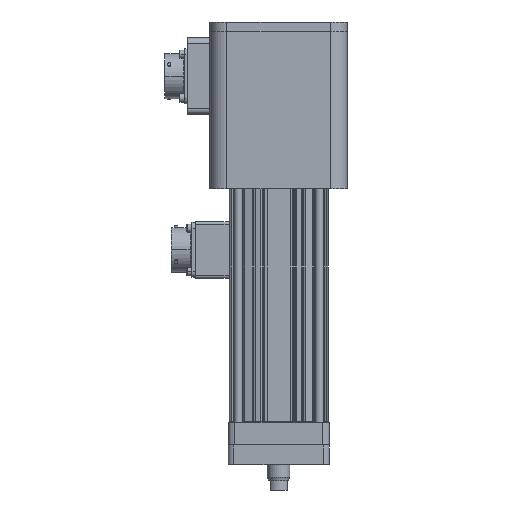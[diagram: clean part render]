
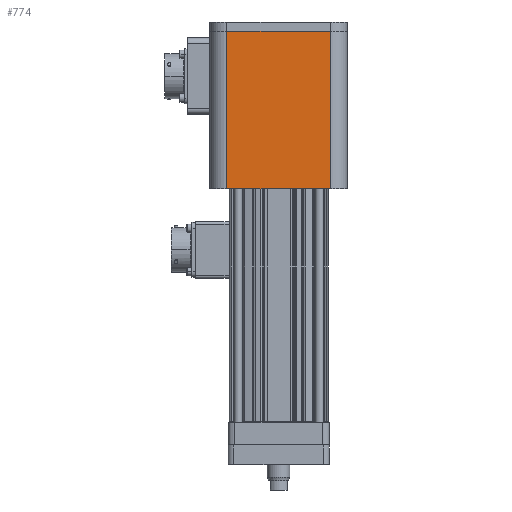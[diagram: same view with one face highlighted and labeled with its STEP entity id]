
A CAD part, left-side view. The second image highlights one B-rep face of the part: STEP entity #774.
In plain terms, the highlighted planar face has unit normal (-1, 0, 0) as drawn and (1, 0, 0) by its records, which use the part's own axes.
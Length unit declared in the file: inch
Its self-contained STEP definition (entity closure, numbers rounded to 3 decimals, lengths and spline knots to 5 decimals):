
#762 = ORIENTED_EDGE ( 'NONE', *, *, #763, .F. ) ;
#763 = EDGE_CURVE ( 'NONE', #766, #811, #8553, .T. ) ;
#764 = EDGE_LOOP ( 'NONE', ( #775, #762, #807, #809 ) ) ;
#765 = EDGE_CURVE ( 'NONE', #806, #811, #8535, .T. ) ;
#766 = VERTEX_POINT ( 'NONE', #8544 ) ;
#767 = VERTEX_POINT ( 'NONE', #8533 ) ;
#772 = EDGE_CURVE ( 'NONE', #767, #806, #8531, .T. ) ;
#774 = ADVANCED_FACE ( 'NONE', ( #8547 ), #8546, .F. ) ;
#775 = ORIENTED_EDGE ( 'NONE', *, *, #765, .T. ) ;
#806 = VERTEX_POINT ( 'NONE', #8594 ) ;
#807 = ORIENTED_EDGE ( 'NONE', *, *, #808, .F. ) ;
#808 = EDGE_CURVE ( 'NONE', #767, #766, #8577, .T. ) ;
#809 = ORIENTED_EDGE ( 'NONE', *, *, #772, .T. ) ;
#811 = VERTEX_POINT ( 'NONE', #8579 ) ;
#8523 = CARTESIAN_POINT ( 'NONE',  ( 1.523, -1.148, 0. ) ) ;
#8530 = DIRECTION ( 'NONE',  ( 0., 0., -1. ) ) ;
#8531 = LINE ( 'NONE', #8541, #8555 ) ;
#8533 = CARTESIAN_POINT ( 'NONE',  ( 1.523, -1.148, 3.5 ) ) ;
#8534 = VECTOR ( 'NONE', #8530, 39.37008 ) ;
#8535 = LINE ( 'NONE', #8523, #8552 ) ;
#8536 = DIRECTION ( 'NONE',  ( 0., 0., 1. ) ) ;
#8537 = DIRECTION ( 'NONE',  ( -1., 0., 0. ) ) ;
#8538 = AXIS2_PLACEMENT_3D ( 'NONE', #8545, #8537, #8536 ) ;
#8541 = CARTESIAN_POINT ( 'NONE',  ( 1.523, -1.148, 3.5 ) ) ;
#8543 = CARTESIAN_POINT ( 'NONE',  ( 1.523, 1.148, 3.5 ) ) ;
#8544 = CARTESIAN_POINT ( 'NONE',  ( 1.523, 1.148, 3.5 ) ) ;
#8545 = CARTESIAN_POINT ( 'NONE',  ( 1.523, -1.148, 3.5 ) ) ;
#8546 = PLANE ( 'NONE',  #8538 ) ;
#8547 = FACE_OUTER_BOUND ( 'NONE', #764, .T. ) ;
#8551 = DIRECTION ( 'NONE',  ( 0., 1., 0. ) ) ;
#8552 = VECTOR ( 'NONE', #8551, 39.37008 ) ;
#8553 = LINE ( 'NONE', #8543, #8534 ) ;
#8554 = DIRECTION ( 'NONE',  ( 0., 0., -1. ) ) ;
#8555 = VECTOR ( 'NONE', #8554, 39.37008 ) ;
#8571 = DIRECTION ( 'NONE',  ( 0., 1., 0. ) ) ;
#8575 = VECTOR ( 'NONE', #8571, 39.37008 ) ;
#8576 = CARTESIAN_POINT ( 'NONE',  ( 1.523, -1.148, 3.5 ) ) ;
#8577 = LINE ( 'NONE', #8576, #8575 ) ;
#8579 = CARTESIAN_POINT ( 'NONE',  ( 1.523, 1.148, 0. ) ) ;
#8594 = CARTESIAN_POINT ( 'NONE',  ( 1.523, -1.148, 0. ) ) ;
